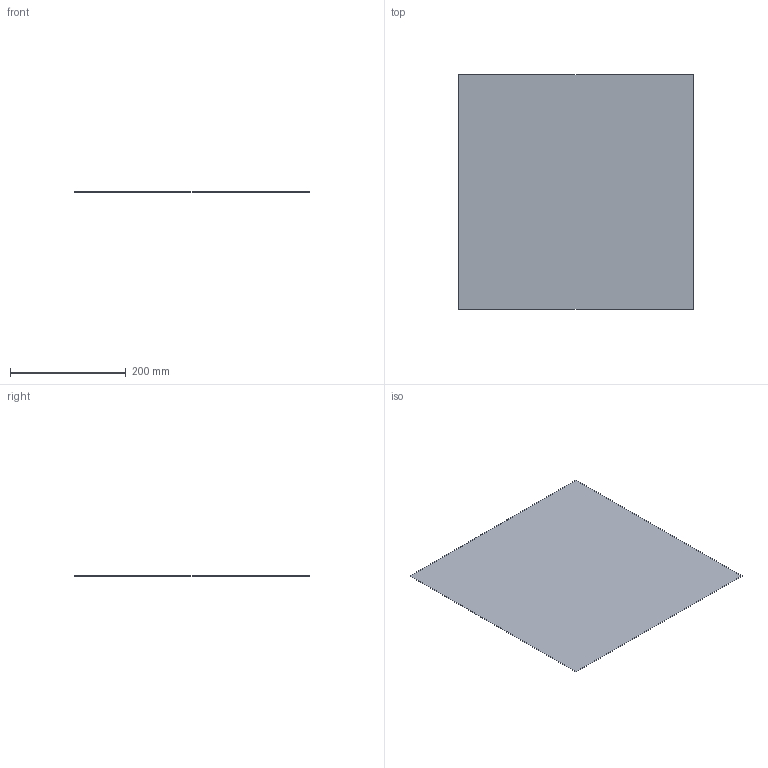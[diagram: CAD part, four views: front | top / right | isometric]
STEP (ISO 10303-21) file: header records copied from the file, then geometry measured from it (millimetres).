
FILE_DESCRIPTION (( 'STEP AP203' ), '1' );
FILE_NAME ('BackgroundPaper.STEP', '2025-03-11T00:33:59', ( '' ), ( '' ), 'SwSTEP 2.0', 'SolidWorks 2024', '' );
FILE_SCHEMA (( 'CONFIG_CONTROL_DESIGN' ));
Length unit declared in the file: millimetre
Products named in the file (1): BackgroundPaper
Bounding box: 406.4 x 406.4 x 0.1 mm (x, y, z)
Volume: 16516.1 mm3; surface area: 330484.5 mm2
Topology: 1 solids, 1 shells, 6 faces, 12 edges, 8 vertices
Faces by surface type: plane 6
Entity records: 231 total; most frequent: CARTESIAN_POINT 27, DIRECTION 26, ORIENTED_EDGE 24, LINE 12, VECTOR 12, EDGE_CURVE 12, VERTEX_POINT 8, PERSON_AND_ORGANIZATION 8
